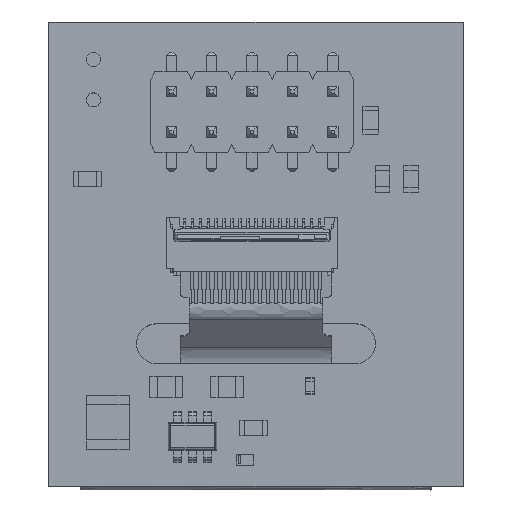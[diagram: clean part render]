
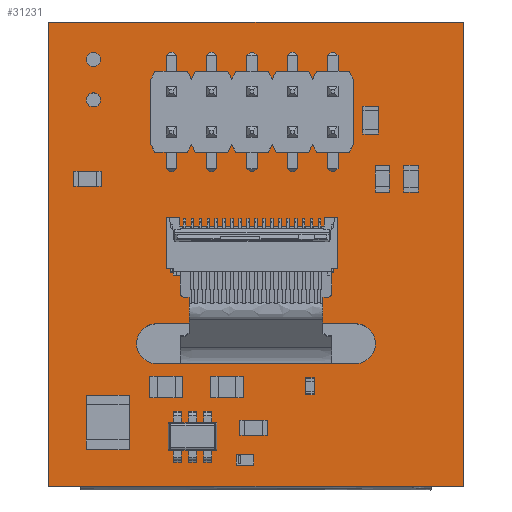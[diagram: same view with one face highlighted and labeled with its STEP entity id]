
A CAD part, top view. The second image highlights one B-rep face of the part: STEP entity #31231.
In plain terms, the highlighted planar face has unit normal (0, 0, 1).
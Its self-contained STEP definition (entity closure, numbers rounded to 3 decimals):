
#442 = VECTOR ( 'NONE', #28283, 1000. ) ;
#1104 = VECTOR ( 'NONE', #5453, 1000. ) ;
#1284 = DIRECTION ( 'NONE',  ( 1., 0., 0. ) ) ;
#1378 = DIRECTION ( 'NONE',  ( 1., 0., 0. ) ) ;
#1780 = CARTESIAN_POINT ( 'NONE',  ( 26., 0., 1.619 ) ) ;
#2337 = VERTEX_POINT ( 'NONE', #34353 ) ;
#3840 = LINE ( 'NONE', #30340, #4194 ) ;
#4032 = EDGE_CURVE ( 'NONE', #57328, #31298, #59820, .T. ) ;
#4194 = VECTOR ( 'NONE', #24582, 1000. ) ;
#5028 = AXIS2_PLACEMENT_3D ( 'NONE', #36329, #36007, #25842 ) ;
#5093 = FACE_BOUND ( 'NONE', #9939, .T. ) ;
#5453 = DIRECTION ( 'NONE',  ( 1., 0., 0. ) ) ;
#5523 = EDGE_CURVE ( 'NONE', #25718, #13732, #53615, .T. ) ;
#7087 = CARTESIAN_POINT ( 'NONE',  ( 26., 29.15, 1.619 ) ) ;
#9427 = AXIS2_PLACEMENT_3D ( 'NONE', #40903, #56541, #57878 ) ;
#9939 = EDGE_LOOP ( 'NONE', ( #22770, #27442 ) ) ;
#11063 = EDGE_CURVE ( 'NONE', #18302, #66837, #38718, .T. ) ;
#12019 = LINE ( 'NONE', #1780, #37531 ) ;
#12320 = DIRECTION ( 'NONE',  ( 1., 0., 0. ) ) ;
#12612 = CIRCLE ( 'NONE', #46210, 0.444 ) ;
#12793 = EDGE_CURVE ( 'NONE', #41814, #49472, #20736, .T. ) ;
#13732 = VERTEX_POINT ( 'NONE', #18366 ) ;
#15155 = EDGE_LOOP ( 'NONE', ( #54915, #17191, #59969, #43682 ) ) ;
#17191 = ORIENTED_EDGE ( 'NONE', *, *, #22189, .T. ) ;
#18099 = EDGE_LOOP ( 'NONE', ( #38183, #42696 ) ) ;
#18302 = VERTEX_POINT ( 'NONE', #54414 ) ;
#18366 = CARTESIAN_POINT ( 'NONE',  ( 26., 0., 1.619 ) ) ;
#20056 = CARTESIAN_POINT ( 'NONE',  ( 6.75, 10.2, 1.619 ) ) ;
#20473 = DIRECTION ( 'NONE',  ( -1., 0., 0. ) ) ;
#20736 = CIRCLE ( 'NONE', #48938, 0.444 ) ;
#21765 = EDGE_CURVE ( 'NONE', #61671, #26515, #39037, .T. ) ;
#21835 = DIRECTION ( 'NONE',  ( 0., 0., 1. ) ) ;
#22189 = EDGE_CURVE ( 'NONE', #31298, #61671, #26543, .T. ) ;
#22770 = ORIENTED_EDGE ( 'NONE', *, *, #12793, .F. ) ;
#22864 = DIRECTION ( 'NONE',  ( -1., 0., 0. ) ) ;
#22934 = AXIS2_PLACEMENT_3D ( 'NONE', #62635, #31407, #52115 ) ;
#23354 = CARTESIAN_POINT ( 'NONE',  ( 2.794, 24.257, 1.619 ) ) ;
#23504 = LINE ( 'NONE', #34378, #442 ) ;
#23869 = EDGE_CURVE ( 'NONE', #49472, #41814, #28473, .T. ) ;
#24519 = ORIENTED_EDGE ( 'NONE', *, *, #5523, .F. ) ;
#24582 = DIRECTION ( 'NONE',  ( 1., 0., 0. ) ) ;
#25471 = CARTESIAN_POINT ( 'NONE',  ( 19.25, 10.2, 1.619 ) ) ;
#25578 = LINE ( 'NONE', #46251, #62245 ) ;
#25718 = VERTEX_POINT ( 'NONE', #50200 ) ;
#25842 = DIRECTION ( 'NONE',  ( 1., 0., 0. ) ) ;
#26187 = PLANE ( 'NONE',  #5028 ) ;
#26515 = VERTEX_POINT ( 'NONE', #44872 ) ;
#26543 = LINE ( 'NONE', #51980, #1104 ) ;
#27442 = ORIENTED_EDGE ( 'NONE', *, *, #23869, .F. ) ;
#27827 = DIRECTION ( 'NONE',  ( 0., -1., 0. ) ) ;
#27999 = CARTESIAN_POINT ( 'NONE',  ( 2.35, 24.257, 1.619 ) ) ;
#28229 = AXIS2_PLACEMENT_3D ( 'NONE', #54473, #43618, #54144 ) ;
#28283 = DIRECTION ( 'NONE',  ( 0., 1., 0. ) ) ;
#28473 = CIRCLE ( 'NONE', #58796, 0.444 ) ;
#28543 = CARTESIAN_POINT ( 'NONE',  ( 3.238, 24.257, 1.619 ) ) ;
#30052 = EDGE_CURVE ( 'NONE', #2337, #58612, #23504, .T. ) ;
#30340 = CARTESIAN_POINT ( 'NONE',  ( 0., 29.15, 1.619 ) ) ;
#30590 = FACE_BOUND ( 'NONE', #15155, .T. ) ;
#31231 = ADVANCED_FACE ( 'NONE', ( #51614, #5093, #30590, #41082 ), #26187, .T. ) ;
#31298 = VERTEX_POINT ( 'NONE', #20056 ) ;
#31407 = DIRECTION ( 'NONE',  ( 0., 0., -1. ) ) ;
#32309 = DIRECTION ( 'NONE',  ( 0., 0., 1. ) ) ;
#34353 = CARTESIAN_POINT ( 'NONE',  ( 0., 0., 1.619 ) ) ;
#34378 = CARTESIAN_POINT ( 'NONE',  ( 0., 0., 1.619 ) ) ;
#36007 = DIRECTION ( 'NONE',  ( 0., 0., 1. ) ) ;
#36329 = CARTESIAN_POINT ( 'NONE',  ( 0., 0., 1.619 ) ) ;
#36556 = CARTESIAN_POINT ( 'NONE',  ( 3.238, 26.797, 1.619 ) ) ;
#37531 = VECTOR ( 'NONE', #22864, 1000. ) ;
#38183 = ORIENTED_EDGE ( 'NONE', *, *, #65198, .F. ) ;
#38397 = EDGE_CURVE ( 'NONE', #13732, #2337, #12019, .T. ) ;
#38718 = CIRCLE ( 'NONE', #9427, 0.444 ) ;
#39037 = CIRCLE ( 'NONE', #28229, 1.25 ) ;
#40903 = CARTESIAN_POINT ( 'NONE',  ( 2.794, 26.797, 1.619 ) ) ;
#41082 = FACE_BOUND ( 'NONE', #18099, .T. ) ;
#41814 = VERTEX_POINT ( 'NONE', #28543 ) ;
#42696 = ORIENTED_EDGE ( 'NONE', *, *, #11063, .F. ) ;
#43618 = DIRECTION ( 'NONE',  ( 0., 0., -1. ) ) ;
#43682 = ORIENTED_EDGE ( 'NONE', *, *, #47592, .T. ) ;
#44426 = ORIENTED_EDGE ( 'NONE', *, *, #52980, .F. ) ;
#44872 = CARTESIAN_POINT ( 'NONE',  ( 19.25, 7.7, 1.619 ) ) ;
#46210 = AXIS2_PLACEMENT_3D ( 'NONE', #54054, #21835, #12320 ) ;
#46251 = CARTESIAN_POINT ( 'NONE',  ( 19.25, 7.7, 1.619 ) ) ;
#47592 = EDGE_CURVE ( 'NONE', #26515, #57328, #25578, .T. ) ;
#48938 = AXIS2_PLACEMENT_3D ( 'NONE', #59454, #32309, #1378 ) ;
#49472 = VERTEX_POINT ( 'NONE', #27999 ) ;
#49729 = VECTOR ( 'NONE', #27827, 1000. ) ;
#50200 = CARTESIAN_POINT ( 'NONE',  ( 26., 29.15, 1.619 ) ) ;
#51412 = ORIENTED_EDGE ( 'NONE', *, *, #30052, .F. ) ;
#51614 = FACE_OUTER_BOUND ( 'NONE', #66152, .T. ) ;
#51980 = CARTESIAN_POINT ( 'NONE',  ( 6.75, 10.2, 1.619 ) ) ;
#52115 = DIRECTION ( 'NONE',  ( 0., -1., 0. ) ) ;
#52980 = EDGE_CURVE ( 'NONE', #58612, #25718, #3840, .T. ) ;
#53043 = CARTESIAN_POINT ( 'NONE',  ( 0., 29.15, 1.619 ) ) ;
#53615 = LINE ( 'NONE', #7087, #49729 ) ;
#54054 = CARTESIAN_POINT ( 'NONE',  ( 2.794, 26.797, 1.619 ) ) ;
#54144 = DIRECTION ( 'NONE',  ( 0., 1., 0. ) ) ;
#54414 = CARTESIAN_POINT ( 'NONE',  ( 2.35, 26.797, 1.619 ) ) ;
#54473 = CARTESIAN_POINT ( 'NONE',  ( 19.25, 8.95, 1.619 ) ) ;
#54915 = ORIENTED_EDGE ( 'NONE', *, *, #4032, .T. ) ;
#56541 = DIRECTION ( 'NONE',  ( 0., 0., 1. ) ) ;
#57328 = VERTEX_POINT ( 'NONE', #59546 ) ;
#57878 = DIRECTION ( 'NONE',  ( 1., 0., 0. ) ) ;
#58612 = VERTEX_POINT ( 'NONE', #53043 ) ;
#58796 = AXIS2_PLACEMENT_3D ( 'NONE', #23354, #64775, #1284 ) ;
#59448 = ORIENTED_EDGE ( 'NONE', *, *, #38397, .F. ) ;
#59454 = CARTESIAN_POINT ( 'NONE',  ( 2.794, 24.257, 1.619 ) ) ;
#59546 = CARTESIAN_POINT ( 'NONE',  ( 6.75, 7.7, 1.619 ) ) ;
#59820 = CIRCLE ( 'NONE', #22934, 1.25 ) ;
#59969 = ORIENTED_EDGE ( 'NONE', *, *, #21765, .T. ) ;
#61671 = VERTEX_POINT ( 'NONE', #25471 ) ;
#62245 = VECTOR ( 'NONE', #20473, 1000. ) ;
#62635 = CARTESIAN_POINT ( 'NONE',  ( 6.75, 8.95, 1.619 ) ) ;
#64775 = DIRECTION ( 'NONE',  ( 0., 0., 1. ) ) ;
#65198 = EDGE_CURVE ( 'NONE', #66837, #18302, #12612, .T. ) ;
#66152 = EDGE_LOOP ( 'NONE', ( #59448, #24519, #44426, #51412 ) ) ;
#66837 = VERTEX_POINT ( 'NONE', #36556 ) ;
